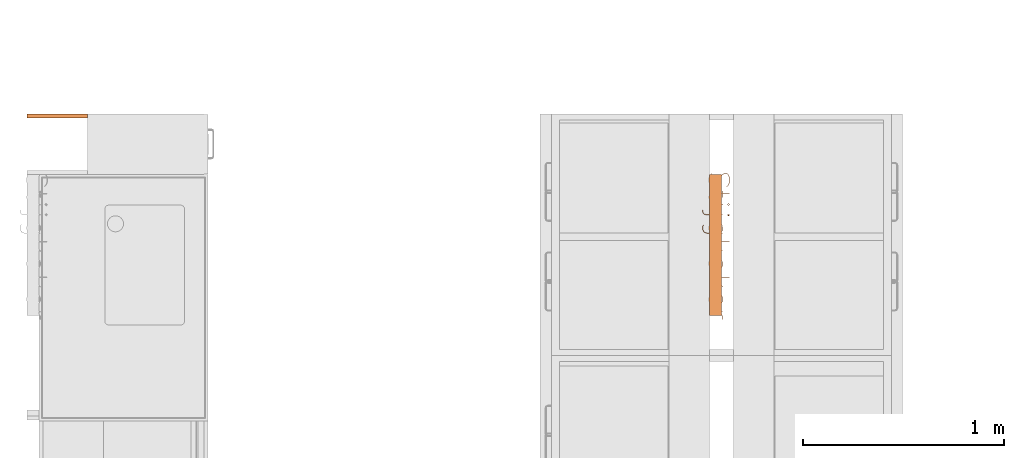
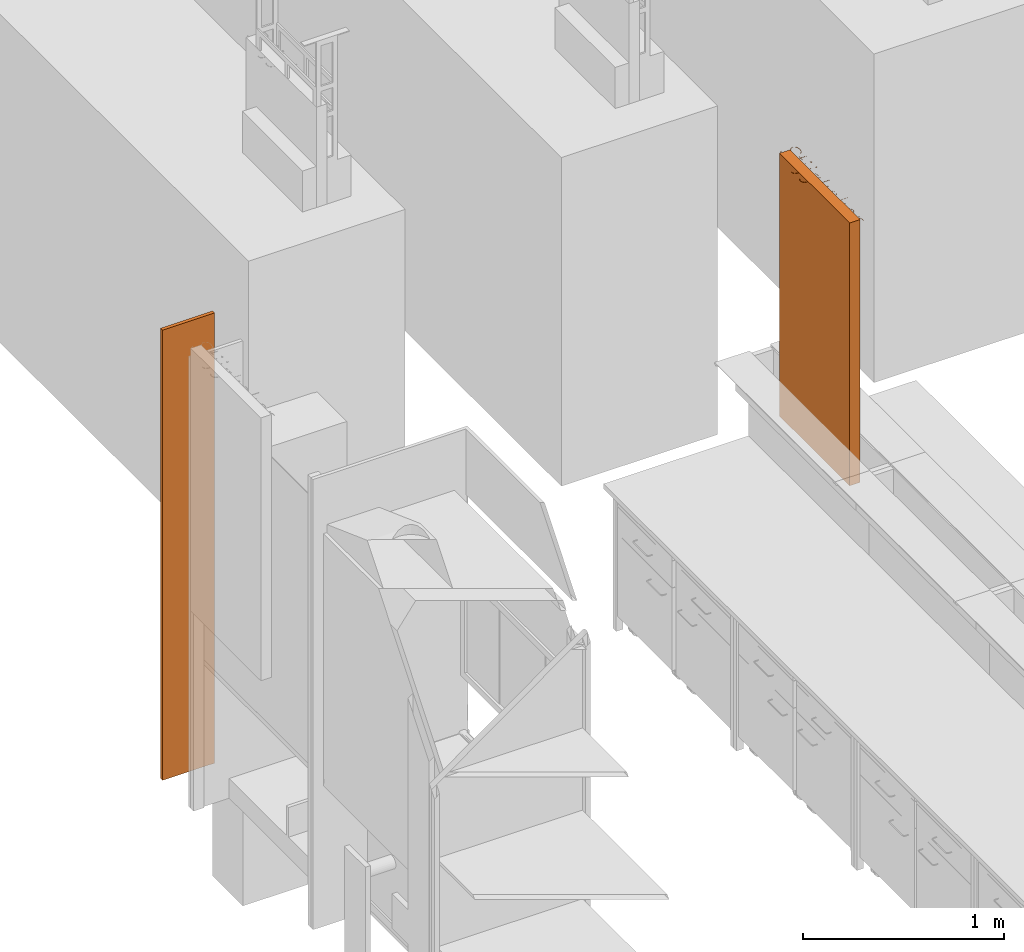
# One storey, part 21 of 43: 2 proxies.
"""IFC2X3 building model written with IfcOpenShell, lengths in metres."""

from ifc_helpers import new_model, entity, si_unit, converted_unit, derived_unit, direction, frame, origin, origin_2d_with_axis, place, context, subcontext, project, spatial, rectangle, extrude, face_set, surface_model, source, transform, mapped, material, type_object, type_shapes, element, save


model = new_model("IFC2X3")

# Units and contexts
model_context = context("Model", 3, precision=1e-05, world=origin(), true_north=direction((6.12303176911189e-17, 1.0)))
body_context = subcontext(model_context, "Body", "Model", "MODEL_VIEW")
ifc_project = project(units=[si_unit("LENGTHUNIT", "METRE"), si_unit("AREAUNIT", "SQUARE_METRE"), si_unit("VOLUMEUNIT", "CUBIC_METRE"), converted_unit("PLANEANGLEUNIT", "DEGREE", entity("IfcRatioMeasure", 0.0174532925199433), si_unit("PLANEANGLEUNIT", "RADIAN"), dimensions=[0, 0, 0, 0, 0, 0, 0]), si_unit("MASSUNIT", "GRAM", prefix="KILO"), derived_unit("MASSDENSITYUNIT", [(si_unit("MASSUNIT", "GRAM", prefix="KILO"), 1), (si_unit("LENGTHUNIT", "METRE"), -3)]), derived_unit("MOMENTOFINERTIAUNIT", [(si_unit("LENGTHUNIT", "METRE"), 4)]), si_unit("TIMEUNIT", "SECOND"), si_unit("FREQUENCYUNIT", "HERTZ"), si_unit("THERMODYNAMICTEMPERATUREUNIT", "DEGREE_CELSIUS"), derived_unit("THERMALTRANSMITTANCEUNIT", [(si_unit("MASSUNIT", "GRAM", prefix="KILO"), 1), (si_unit("THERMODYNAMICTEMPERATUREUNIT", "KELVIN"), -1), (si_unit("TIMEUNIT", "SECOND"), -3)]), derived_unit("VOLUMETRICFLOWRATEUNIT", [(si_unit("LENGTHUNIT", "METRE"), 3), (si_unit("TIMEUNIT", "SECOND"), -1)]), si_unit("ELECTRICCURRENTUNIT", "AMPERE"), si_unit("ELECTRICVOLTAGEUNIT", "VOLT"), si_unit("POWERUNIT", "WATT"), si_unit("FORCEUNIT", "NEWTON", prefix="KILO"), si_unit("ILLUMINANCEUNIT", "LUX"), si_unit("LUMINOUSFLUXUNIT", "LUMEN"), si_unit("LUMINOUSINTENSITYUNIT", "CANDELA"), derived_unit("USERDEFINED", [(si_unit("MASSUNIT", "GRAM", prefix="KILO"), -1), (si_unit("LENGTHUNIT", "METRE"), -2), (si_unit("TIMEUNIT", "SECOND"), 3), (si_unit("LUMINOUSFLUXUNIT", "LUMEN"), 1)]), derived_unit("LINEARVELOCITYUNIT", [(si_unit("LENGTHUNIT", "METRE"), 1), (si_unit("TIMEUNIT", "SECOND"), -1)]), si_unit("PRESSUREUNIT", "PASCAL"), derived_unit("USERDEFINED", [(si_unit("LENGTHUNIT", "METRE"), -2), (si_unit("MASSUNIT", "GRAM", prefix="KILO"), 1), (si_unit("TIMEUNIT", "SECOND"), -2)]), derived_unit("LINEARFORCEUNIT", [(si_unit("MASSUNIT", "GRAM", prefix="KILO"), 1), (si_unit("LENGTHUNIT", "METRE"), 1), (si_unit("TIMEUNIT", "SECOND"), -2), (si_unit("LENGTHUNIT", "METRE"), -1)]), derived_unit("PLANARFORCEUNIT", [(si_unit("MASSUNIT", "GRAM", prefix="KILO"), 1), (si_unit("LENGTHUNIT", "METRE"), 1), (si_unit("TIMEUNIT", "SECOND"), -2), (si_unit("LENGTHUNIT", "METRE"), -2)])], contexts=[model_context])

# Site, building, storey
site_placement = place(None, origin())
site = spatial("IfcSite", under=ifc_project, at=site_placement, Name="Default", CompositionType="ELEMENT")
building_placement = place(site_placement, origin())
building = spatial("IfcBuilding", under=site, at=building_placement, CompositionType="ELEMENT")
storey_placement = place(building_placement, frame((0.0, 0.0, 3.0)))
storey = spatial("IfcBuildingStorey", under=building, at=storey_placement, Name="01 OG", CompositionType="ELEMENT", Elevation=3.0)

# Proxies
ifc_material_1 = material(Name="dh_Weiß")
building_element_proxy_type_1 = type_object("IfcBuildingElementProxyType", Name="dh_Blende:dh_Blende", PredefinedType="NOTDEFINED", material=ifc_material_1)
shared_shape_1 = source(origin(), body_context, "Body", "SweptSolid", [
    extrude(rectangle(XDim=0.299999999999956, YDim=0.02, at=origin_2d_with_axis()), frame((0.0, -0.00999999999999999, 0.0), z_axis=(0.0, 0.0, 1.0), x_axis=(-1.0, 0.0, 0.0)), (0.0, 0.0, 1.0), 2.74),
])
type_shapes(building_element_proxy_type_1, [shared_shape_1])
proxy_1_placement = place(storey_placement, frame((10.3000000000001, 16.304, 0.7), z_axis=(0.0, 0.0, 1.0), x_axis=(-1.0, 0.0, 0.0)))
element("IfcBuildingElementProxy", 1, at=proxy_1_placement, inside=storey, type_object=building_element_proxy_type_1, material=ifc_material_1, Name="dh_Blende:dh_Blende", ObjectType="dh_Blende:dh_Blende", context=body_context, shape_type="MappedRepresentation", body=[
    mapped(shared_shape_1, transform((0.0, 0.0, 0.0), scale=1.0)),
])
ifc_material_2 = material(Name="dh_Stellfläche")
building_element_proxy_type_2 = type_object("IfcBuildingElementProxyType", Name="dh_Gerät_Stellfläche Bestand:Nutzergerät", PredefinedType="NOTDEFINED", material=ifc_material_2)
shared_shape_2 = source(origin(), body_context, "Body", "SurfaceModel", [
    surface_model("IfcFaceBasedSurfaceModel", [(-0.355113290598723, -0.0453817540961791, 1.605), (-0.356700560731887, -0.0470458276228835, 1.605), (-0.346946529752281, -0.0567998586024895, 1.605), (-0.332277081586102, -0.0616384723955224, 1.605), (-0.31294822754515, -0.0616384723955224, 1.605), (-0.298278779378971, -0.0567998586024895, 1.605), (-0.288166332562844, -0.0466618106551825, 1.605), (-0.288166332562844, -0.0314547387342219, 1.605), (-0.293081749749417, -0.0214446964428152, 1.605), (-0.298073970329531, -0.0163500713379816, 1.605), (-0.307904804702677, -0.0115114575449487, 1.605), (-0.336450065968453, -0.00188543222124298, 1.605), (-0.345692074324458, 0.00295318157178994, 1.605), (-0.35019787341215, 0.00745898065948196, 1.605), (-0.354857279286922, 0.0166497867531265, 1.605), (-0.354857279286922, 0.0255845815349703, 1.605), (-0.345820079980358, 0.0347241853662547, 1.605), (-0.331944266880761, 0.0393579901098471, 1.605), (-0.313204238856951, 0.0393579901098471, 1.605), (-0.299328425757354, 0.0347241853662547, 1.605), (-0.290112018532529, 0.0252005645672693, 1.605), (-0.288447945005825, 0.0268646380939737, 1.605), (-0.298278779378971, 0.0366186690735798, 1.605), (-0.31294822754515, 0.041585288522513, 1.605), (-0.332277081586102, 0.041585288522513, 1.605), (-0.346946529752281, 0.0366186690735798, 1.605), (-0.356982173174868, 0.0264550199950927, 1.605), (-0.356982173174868, 0.016112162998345, 1.605), (-0.352117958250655, 0.00610212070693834, 1.605), (-0.347074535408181, 0.00100749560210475, 1.605), (-0.337243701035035, -0.00383111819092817, 1.605), (-0.308698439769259, -0.0134571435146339, 1.605), (-0.299456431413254, -0.0182957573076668, 1.605), (-0.294950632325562, -0.0228015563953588, 1.605), (-0.29036802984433, -0.0320691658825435, 1.605), (-0.29036802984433, -0.0457657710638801, 1.605), (-0.299328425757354, -0.0549053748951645, 1.605), (-0.313204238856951, -0.0595647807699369, 1.605), (-0.331944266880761, -0.0595647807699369, 1.605), (-0.345820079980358, -0.0549053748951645, 1.605), (-0.230691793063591, -0.0616384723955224, 1.605), (-0.230691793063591, -0.0595647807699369, 1.605), (-0.239908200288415, -0.0595647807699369, 1.605), (-0.248740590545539, -0.055084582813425, 1.605), (-0.253399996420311, -0.0413879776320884, 1.605), (-0.253399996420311, 0.00533408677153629, 1.605), (-0.235402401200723, 0.00533408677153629, 1.605), (-0.235402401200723, 0.00745898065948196, 1.605), (-0.253399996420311, 0.00745898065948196, 1.605), (-0.253399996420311, 0.0399468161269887, 1.605), (-0.255576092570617, 0.0399468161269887, 1.605), (-0.255576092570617, 0.00745898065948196, 1.605), (-0.268735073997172, 0.00745898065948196, 1.605), (-0.268735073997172, 0.00533408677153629, 1.605), (-0.255576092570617, 0.00533408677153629, 1.605), (-0.255576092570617, -0.0416439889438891, 1.605), (-0.250660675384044, -0.0566974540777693, 1.605), (-0.240445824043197, -0.0616384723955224, 1.605), (-0.201327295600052, -0.0599999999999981, 1.605), (-0.199202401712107, -0.0599999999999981, 1.605), (-0.199202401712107, 0.00666534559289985, 1.605), (-0.201327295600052, 0.00666534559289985, 1.605), (-0.173294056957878, -0.0922318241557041, 1.605), (-0.173294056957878, -0.0944079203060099, 1.605), (-0.163744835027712, -0.0944079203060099, 1.605), (-0.153581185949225, -0.0893644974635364, 1.605), (-0.148665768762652, -0.0744390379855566, 1.605), (-0.148665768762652, 0.00651173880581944, 1.605), (-0.150867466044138, 0.00651173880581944, 1.605), (-0.150867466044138, -0.0741574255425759, 1.605), (-0.15550127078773, -0.087700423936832, 1.605), (-0.164333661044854, -0.0922318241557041, 1.605), (-0.100049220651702, -0.0875980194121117, 1.605), (-0.101175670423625, -0.0895181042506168, 1.605), (-0.0913448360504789, -0.0944079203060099, 1.605), (-0.0765473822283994, -0.0944079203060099, 1.605), (-0.066639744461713, -0.0895181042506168, 1.605), (-0.0615963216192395, -0.0843466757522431, 1.605), (-0.0566809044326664, -0.069728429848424, 1.605), (-0.0566809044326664, 0.00615332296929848, 1.605), (-0.0588826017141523, 0.00615332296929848, 1.605), (-0.0588826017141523, -0.00552079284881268, 1.605), (-0.066639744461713, 0.0023387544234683, 1.605), (-0.0765473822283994, 0.00717736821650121, 1.605), (-0.0913448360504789, 0.00717736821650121, 1.605), (-0.101303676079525, 0.0023387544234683, 1.605), (-0.111057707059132, -0.00756888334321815, 1.605), (-0.115973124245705, -0.0221871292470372, 1.605), (-0.115973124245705, -0.0319923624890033, 1.605), (-0.111057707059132, -0.0465850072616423, 1.605), (-0.101303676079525, -0.0564926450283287, 1.605), (-0.0913448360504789, -0.0612544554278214, 1.605), (-0.0765473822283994, -0.0612544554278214, 1.605), (-0.066639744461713, -0.0564926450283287, 1.605), (-0.0588826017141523, -0.0485818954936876, 1.605), (-0.0588826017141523, -0.0694724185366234, 1.605), (-0.0634652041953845, -0.0832970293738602, 1.605), (-0.0679710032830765, -0.0875980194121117, 1.605), (-0.0770594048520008, -0.0922318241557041, 1.605), (-0.0908072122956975, -0.0922318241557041, 1.605), (-0.0588826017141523, -0.0452537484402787, 1.605), (-0.0679710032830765, -0.0542909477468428, 1.605), (-0.0770594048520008, -0.0588735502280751, 1.605), (-0.0908072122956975, -0.0588735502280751, 1.605), (-0.0999212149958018, -0.0542909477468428, 1.605), (-0.109214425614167, -0.0451257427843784, 1.605), (-0.113797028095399, -0.0312499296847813, 1.605), (-0.113797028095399, -0.0220079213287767, 1.605), (-0.109214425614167, -0.00813210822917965, 1.605), (-0.0999212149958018, 0.000956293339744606, 1.605), (-0.0908072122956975, 0.00561569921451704, 1.605), (-0.0770594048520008, 0.00561569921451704, 1.605), (-0.0679710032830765, 0.000956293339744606, 1.605), (-0.0588826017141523, -0.00800410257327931, 1.605), (-0.0178183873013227, -0.0599999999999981, 1.605), (-0.0156934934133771, -0.0599999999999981, 1.605), (-0.0156934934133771, -0.0413367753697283, 1.605), (0.00230410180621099, -0.0235439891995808, 1.605), (0.0347919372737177, -0.0599999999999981, 1.605), (0.0364560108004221, -0.0587455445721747, 1.605), (0.0037633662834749, -0.0214958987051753, 1.605), (0.0316685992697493, 0.00625572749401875, 1.605), (0.0300813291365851, 0.00784299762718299, 1.605), (-0.0156934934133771, -0.0379574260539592, 1.605), (-0.0156934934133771, 0.0399468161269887, 1.605), (-0.0178183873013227, 0.0399468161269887, 1.605), (0.120146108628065, -0.0469178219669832, 1.605), (0.125061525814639, -0.0322227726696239, 1.605), (0.125061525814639, -0.0223663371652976, 1.605), (0.120146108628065, -0.00767128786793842, 1.605), (0.110315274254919, 0.00231315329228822, 1.605), (0.100407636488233, 0.00717736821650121, 1.605), (0.0856101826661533, 0.00717736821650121, 1.605), (0.0756513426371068, 0.00231315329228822, 1.605), (0.0658973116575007, -0.00767128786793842, 1.605), (0.0609818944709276, -0.0223663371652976, 1.605), (0.0609818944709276, -0.0322227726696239, 1.605), (0.0658973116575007, -0.0469178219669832, 1.605), (0.0756513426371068, -0.0568510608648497, 1.605), (0.0856101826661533, -0.0616384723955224, 1.605), (0.100407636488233, -0.0616384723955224, 1.605), (0.110315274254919, -0.0568510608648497, 1.605), (0.11820042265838, -0.0451257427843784, 1.605), (0.108984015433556, -0.0542909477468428, 1.605), (0.0998956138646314, -0.0588735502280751, 1.605), (0.0861478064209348, -0.0588735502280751, 1.605), (0.0770338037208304, -0.0542909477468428, 1.605), (0.0677405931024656, -0.0451257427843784, 1.605), (0.0631579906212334, -0.0312499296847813, 1.605), (0.0631579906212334, -0.0220079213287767, 1.605), (0.0677405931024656, -0.00813210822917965, 1.605), (0.0770338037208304, 0.000956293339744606, 1.605), (0.0861478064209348, 0.00561569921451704, 1.605), (0.0998956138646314, 0.00561569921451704, 1.605), (0.108984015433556, 0.000956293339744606, 1.605), (0.11820042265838, -0.00813210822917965, 1.605), (0.122859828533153, -0.0220079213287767, 1.605), (0.122859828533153, -0.0312499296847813, 1.605), (0.15913663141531, -0.0599999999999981, 1.605), (0.161261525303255, -0.0599999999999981, 1.605), (0.161261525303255, -0.0413367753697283, 1.605), (0.179259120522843, -0.0235439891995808, 1.605), (0.21174695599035, -0.0599999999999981, 1.605), (0.213411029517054, -0.0587455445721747, 1.605), (0.180718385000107, -0.0214958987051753, 1.605), (0.208623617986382, 0.00625572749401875, 1.605), (0.207036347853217, 0.00784299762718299, 1.605), (0.161261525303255, -0.0379574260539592, 1.605), (0.161261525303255, 0.0399468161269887, 1.605), (0.15913663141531, 0.0399468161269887, 1.605), (0.296973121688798, -0.0471994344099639, 1.605), (0.295309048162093, -0.0455353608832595, 1.605), (0.285939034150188, -0.0549821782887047, 1.605), (0.276850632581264, -0.0595647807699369, 1.605), (0.263102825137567, -0.0595647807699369, 1.605), (0.253988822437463, -0.0549821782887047, 1.605), (0.244695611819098, -0.0457913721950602, 1.605), (0.240113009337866, -0.0318899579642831, 1.605), (0.240113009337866, -0.0236463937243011, 1.605), (0.297229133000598, -0.0236463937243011, 1.605), (0.297229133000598, -0.0127147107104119, 1.605), (0.292313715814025, -0.00273026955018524, 1.605), (0.287270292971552, 0.00231315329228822, 1.605), (0.277362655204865, 0.00717736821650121, 1.605), (0.262565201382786, 0.00717736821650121, 1.605), (0.252606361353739, 0.00231315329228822, 1.605), (0.242852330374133, -0.00767128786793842, 1.605), (0.23793691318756, -0.0223663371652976, 1.605), (0.23793691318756, -0.0322227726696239, 1.605), (0.242852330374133, -0.0469178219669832, 1.605), (0.252606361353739, -0.0568510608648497, 1.605), (0.262565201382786, -0.0616384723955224, 1.605), (0.277362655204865, -0.0616384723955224, 1.605), (0.287270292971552, -0.0568510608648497, 1.605), (0.240522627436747, -0.0214446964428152, 1.605), (0.244695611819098, -0.00874653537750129, 1.605), (0.253988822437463, 0.000341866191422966, 1.605), (0.263102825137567, 0.0050012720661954, 1.605), (0.276850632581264, 0.0050012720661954, 1.605), (0.285939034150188, 0.000341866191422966, 1.605), (0.29044483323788, -0.00416393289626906, 1.605), (0.295027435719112, -0.0132779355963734, 1.605), (0.295027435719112, -0.0214446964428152, 1.605), (0.331176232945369, -0.0599999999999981, 1.605), (0.333301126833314, -0.0599999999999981, 1.605), (0.333301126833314, -0.0223407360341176, 1.605), (0.337960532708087, -0.00856732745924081, 1.605), (0.347202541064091, 0.000469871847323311, 1.605), (0.356342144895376, 0.00507807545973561, 1.605), (0.370371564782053, 0.00507807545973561, 1.605), (0.370371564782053, 0.00717736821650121, 1.605), (0.355753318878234, 0.00717736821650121, 1.605), (0.345871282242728, 0.00236435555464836, 1.605), (0.336040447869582, -0.00751768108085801, 1.605), (0.333301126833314, -0.0156076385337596, 1.605), (0.333301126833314, 0.00630692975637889, 1.605), (0.331176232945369, 0.00630692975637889, 1.605), (-0.149792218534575, 0.0291175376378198, 1.605), (-0.143494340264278, 0.0353386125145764, 1.605), (-0.149792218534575, 0.041585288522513, 1.605), (-0.156038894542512, 0.0353386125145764, 1.605), (-0.149792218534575, 0.0319592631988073, 1.605), (-0.153043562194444, 0.035210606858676, 1.605), (-0.149792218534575, 0.0384875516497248, 1.605), (-0.146464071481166, 0.035210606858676, 1.605), (-0.20025204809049, 0.0291175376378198, 1.605), (-0.194005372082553, 0.0353386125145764, 1.605), (-0.20025204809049, 0.041585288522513, 1.605), (-0.206498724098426, 0.0353386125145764, 1.605), (-0.20025204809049, 0.0319592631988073, 1.605), (-0.203503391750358, 0.035210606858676, 1.605), (-0.20025204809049, 0.0384875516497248, 1.605), (-0.197000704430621, 0.035210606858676, 1.605), (0.35, 0.0, 1.6), (0.35, -0.06, 1.6), (-0.35, -0.06, 1.6), (-0.35, 0.0, 1.6), (0.35, 0.0, 0.0), (0.35, -0.06, 0.0), (-0.35, -0.06, 0.0), (-0.35, 0.0, 0.0)], [face_set([[[0, 1, 2, 3, 4, 5, 6, 7, 8, 9, 10, 11, 12, 13, 14, 15, 16, 17, 18, 19, 20, 21, 22, 23, 24, 25, 26, 27, 28, 29, 30, 31, 32, 33, 34, 35, 36, 37, 38, 39]]]), face_set([[[40, 41, 42, 43, 44, 45, 46, 47, 48, 49, 50, 51, 52, 53, 54, 55, 56, 57]]]), face_set([[[58, 59, 60, 61]]]), face_set([[[62, 63, 64, 65, 66, 67, 68, 69, 70, 71]]]), face_set([[[72, 73, 74, 75, 76, 77, 78, 79, 80, 81, 82, 83, 84, 85, 86, 87, 88, 89, 90, 91, 92, 93, 94, 95, 96, 97, 98, 99], [100, 101, 102, 103, 104, 105, 106, 107, 108, 109, 110, 111, 112, 113]]]), face_set([[[114, 115, 116, 117, 118, 119, 120, 121, 122, 123, 124, 125]]]), face_set([[[126, 127, 128, 129, 130, 131, 132, 133, 134, 135, 136, 137, 138, 139, 140, 141], [142, 143, 144, 145, 146, 147, 148, 149, 150, 151, 152, 153, 154, 155, 156, 157]]]), face_set([[[158, 159, 160, 161, 162, 163, 164, 165, 166, 167, 168, 169]]]), face_set([[[170, 171, 172, 173, 174, 175, 176, 177, 178, 179, 180, 181, 182, 183, 184, 185, 186, 187, 188, 189, 190, 191, 192, 193], [194, 195, 196, 197, 198, 199, 200, 201, 202]]]), face_set([[[203, 204, 205, 206, 207, 208, 209, 210, 211, 212, 213, 214, 215, 216]]]), face_set([[[217, 218, 219, 220], [221, 222, 223, 224]]]), face_set([[[225, 226, 227, 228], [229, 230, 231, 232]]]), face_set([[[233, 234, 235, 236]], [[237, 238, 239, 240]], [[236, 233, 237, 240]], [[235, 236, 240, 239]], [[234, 238, 239, 235]], [[233, 234, 238, 237]]])]),
])
type_shapes(building_element_proxy_type_2, [shared_shape_2])
proxy_2_placement = place(storey_placement, frame((13.6000000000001, 15.6739999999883, 1.9), z_axis=(0.0, 0.0, 1.0), x_axis=(0.0, -1.0, 0.0)))
element("IfcBuildingElementProxy", 2, at=proxy_2_placement, inside=storey, type_object=building_element_proxy_type_2, material=ifc_material_2, Name="dh_Gerät_Stellfläche Bestand:Nutzergerät", ObjectType="dh_Gerät_Stellfläche Bestand:Nutzergerät", context=body_context, shape_type="MappedRepresentation", body=[
    mapped(shared_shape_2, transform((0.0, 0.0, 0.0), scale=1.0)),
])

save(model, "model.ifc")
